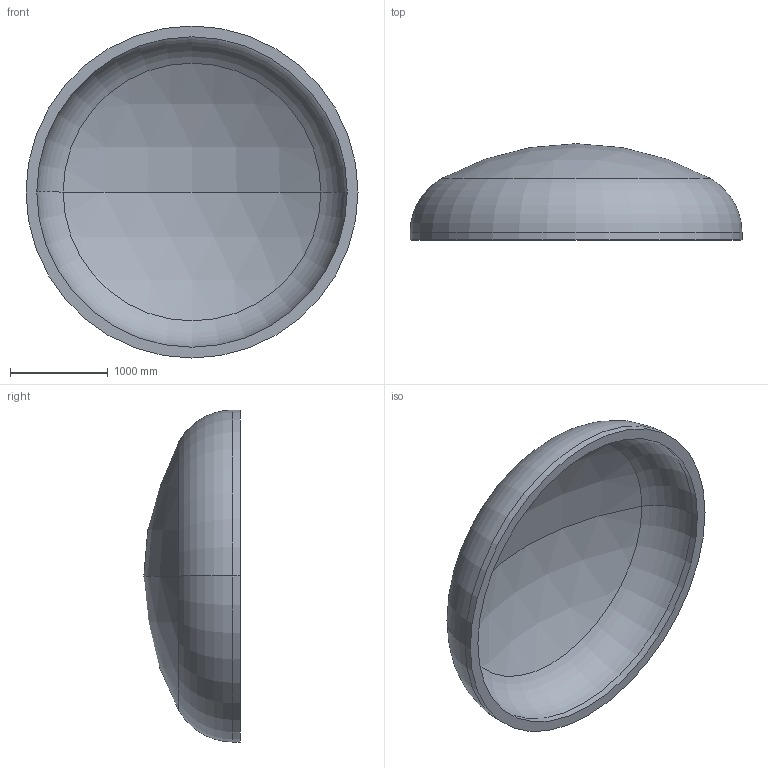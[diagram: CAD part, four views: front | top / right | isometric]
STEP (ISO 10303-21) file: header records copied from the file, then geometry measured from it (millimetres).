
FILE_DESCRIPTION (( 'STEP AP203' ), '1' );
FILE_NAME ('DIN 28013 Korbbogenform_-_Boden DIN 28013 - 3400 x 75 - I - s=110.step', '2016-07-01T19:55:48', ( '' ), ( '' ), 'SwSTEP 2.0', 'SolidWorks 2013', '' );
FILE_SCHEMA (( 'CONFIG_CONTROL_DESIGN' ));
Length unit declared in the file: millimetre
Products named in the file (1): DIN 28013 Korbbogenform_-_Boden DIN 28013 - 3400 x 75 - I - s=110
Bounding box: 3400 x 985.68 x 3400 mm (x, y, z)
Volume: 1412050035.4 mm3; surface area: 26835913 mm2
Topology: 1 solids, 1 shells, 13 faces, 24 edges, 14 vertices
Faces by surface type: torus 4, cylinder 4, sphere 4, plane 1
Entity records: 407 total; most frequent: DIRECTION 72, CARTESIAN_POINT 52, ORIENTED_EDGE 48, AXIS2_PLACEMENT_3D 34, EDGE_CURVE 24, CIRCLE 20, EDGE_LOOP 14, VERTEX_POINT 14
